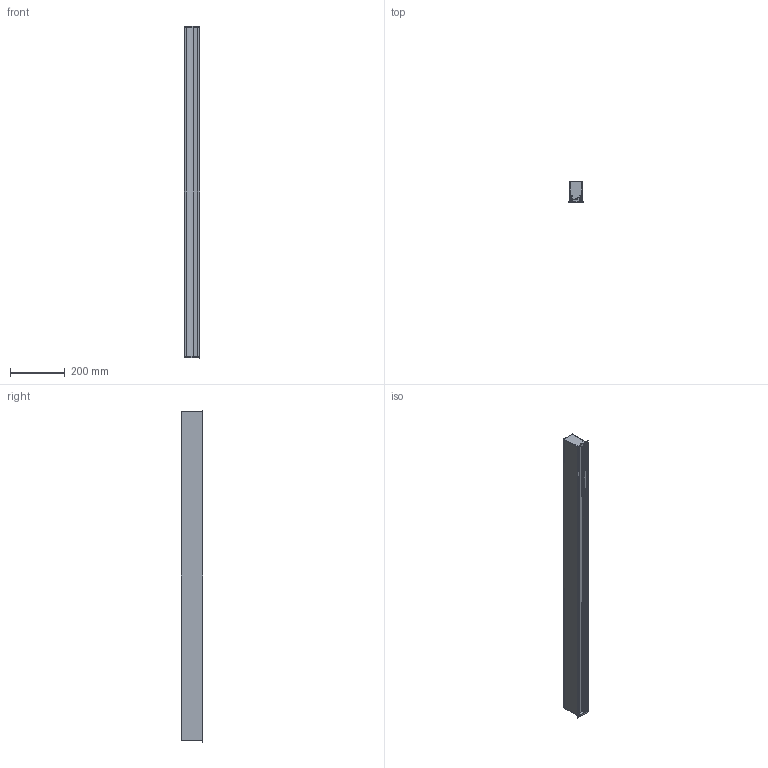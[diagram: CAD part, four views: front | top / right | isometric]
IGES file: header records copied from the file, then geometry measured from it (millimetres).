
Start section: SolidWorks IGES file using analytic representation for surfaces
Global section: file name: C:\Users\JoãoSantos\Desktop\02_3D.2D\01_2020\02_Linear\09_UW\01_Recessed\UW_RECESSED_1215.IGS; native system: SolidWorks 2020; preprocessor: SolidWorks 2020; author: JoãoSantos; date: 201022.154011; units: millimetre
Bounding box: 55 x 77.5 x 1215 mm (x, y, z)
Surface area: 744905.2 mm2 (no closed solid volume)
Topology: 0 solids, 0 shells, 114 faces, 824 edges, 816 vertices
Faces by surface type: revolution 61, bspline 53
